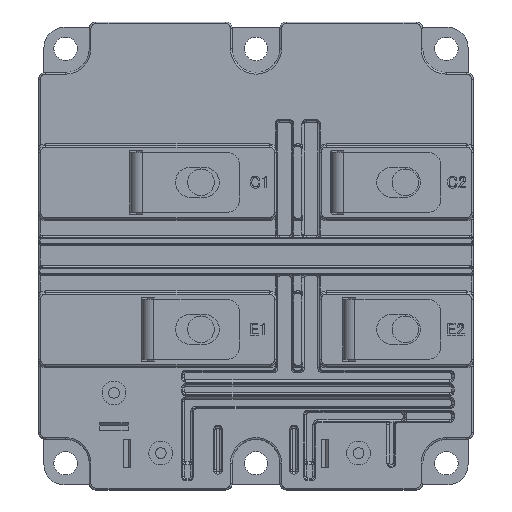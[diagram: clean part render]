
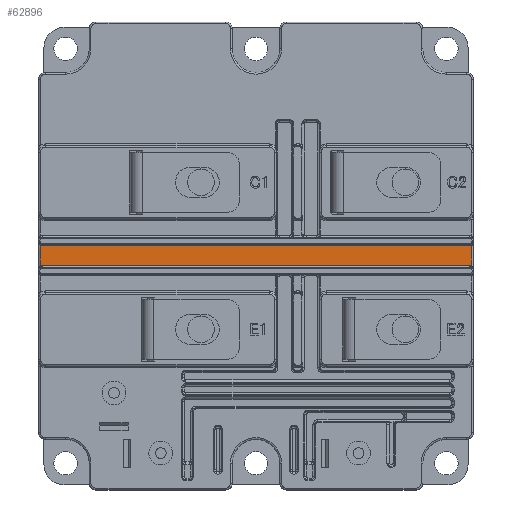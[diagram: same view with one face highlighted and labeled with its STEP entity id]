
A CAD part, top view. The second image highlights one B-rep face of the part: STEP entity #62896.
In plain terms, the highlighted planar face has unit normal (0, 0, 1).
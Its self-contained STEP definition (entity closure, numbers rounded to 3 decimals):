
#25410 = VERTEX_POINT ( 'NONE', #49083 ) ;
#25524 = VERTEX_POINT ( 'NONE', #49300 ) ;
#25565 = EDGE_CURVE ( 'NONE', #25410, #25524, #49347, .T. ) ;
#26935 = PLANE ( 'NONE',  #26944 ) ;
#26936 = CARTESIAN_POINT ( 'NONE',  ( 64., 4.5, 39.5 ) ) ;
#26941 = FACE_OUTER_BOUND ( 'NONE', #62963, .T. ) ;
#26944 = AXIS2_PLACEMENT_3D ( 'NONE', #26975, #26974, #26973 ) ;
#26948 = CARTESIAN_POINT ( 'NONE',  ( 64., 3., 39.5 ) ) ;
#26969 = DIRECTION ( 'NONE',  ( 0., -1., 0. ) ) ;
#26970 = DIRECTION ( 'NONE',  ( 0., 0., -1. ) ) ;
#26971 = AXIS2_PLACEMENT_3D ( 'NONE', #26936, #26970, #26969 ) ;
#26973 = DIRECTION ( 'NONE',  ( 0., -1., 0. ) ) ;
#26974 = DIRECTION ( 'NONE',  ( 0., 0., 1. ) ) ;
#26975 = CARTESIAN_POINT ( 'NONE',  ( -131.68, -3.5, 39.5 ) ) ;
#26977 = CIRCLE ( 'NONE', #26971, 1.5 ) ;
#27071 = CARTESIAN_POINT ( 'NONE',  ( -64., -3., 39.5 ) ) ;
#27087 = CIRCLE ( 'NONE', #27109, 1.5 ) ;
#27097 = CARTESIAN_POINT ( 'NONE',  ( 64., -3., 39.5 ) ) ;
#27098 = CIRCLE ( 'NONE', #27131, 1.5 ) ;
#27100 = DIRECTION ( 'NONE',  ( -1., 0., 0. ) ) ;
#27101 = VECTOR ( 'NONE', #27100, 1000. ) ;
#27102 = CARTESIAN_POINT ( 'NONE',  ( -64., 3., 39.5 ) ) ;
#27103 = LINE ( 'NONE', #27102, #27101 ) ;
#27109 = AXIS2_PLACEMENT_3D ( 'NONE', #27141, #27140, #27139 ) ;
#27114 = CARTESIAN_POINT ( 'NONE',  ( -64., 3., 39.5 ) ) ;
#27118 = CARTESIAN_POINT ( 'NONE',  ( 64., -3., 39.5 ) ) ;
#27128 = VECTOR ( 'NONE', #27163, 1000. ) ;
#27129 = DIRECTION ( 'NONE',  ( 0., -1., 0. ) ) ;
#27130 = DIRECTION ( 'NONE',  ( 0., 0., -1. ) ) ;
#27131 = AXIS2_PLACEMENT_3D ( 'NONE', #27143, #27130, #27129 ) ;
#27134 = LINE ( 'NONE', #27118, #27128 ) ;
#27139 = DIRECTION ( 'NONE',  ( 0., -1., 0. ) ) ;
#27140 = DIRECTION ( 'NONE',  ( 0., 0., -1. ) ) ;
#27141 = CARTESIAN_POINT ( 'NONE',  ( -64., 4.5, 39.5 ) ) ;
#27143 = CARTESIAN_POINT ( 'NONE',  ( -64., -4.5, 39.5 ) ) ;
#27163 = DIRECTION ( 'NONE',  ( 1., 0., 0. ) ) ;
#27364 = CIRCLE ( 'NONE', #27389, 1.5 ) ;
#27389 = AXIS2_PLACEMENT_3D ( 'NONE', #27420, #27419, #27418 ) ;
#27418 = DIRECTION ( 'NONE',  ( 0., -1., 0. ) ) ;
#27419 = DIRECTION ( 'NONE',  ( 0., 0., -1. ) ) ;
#27420 = CARTESIAN_POINT ( 'NONE',  ( 64., -4.5, 39.5 ) ) ;
#49083 = CARTESIAN_POINT ( 'NONE',  ( 64.5, -3.086, 39.5 ) ) ;
#49300 = CARTESIAN_POINT ( 'NONE',  ( 64.5, 3.086, 39.5 ) ) ;
#49343 = DIRECTION ( 'NONE',  ( 0., 1., 0. ) ) ;
#49344 = VECTOR ( 'NONE', #49343, 1000. ) ;
#49345 = CARTESIAN_POINT ( 'NONE',  ( 64.5, 3.5, 39.5 ) ) ;
#49347 = LINE ( 'NONE', #49345, #49344 ) ;
#62779 = ORIENTED_EDGE ( 'NONE', *, *, #95196, .T. ) ;
#62888 = VERTEX_POINT ( 'NONE', #26948 ) ;
#62893 = ORIENTED_EDGE ( 'NONE', *, *, #62897, .T. ) ;
#62896 = ADVANCED_FACE ( 'NONE', ( #26941 ), #26935, .T. ) ;
#62897 = EDGE_CURVE ( 'NONE', #25524, #62888, #26977, .T. ) ;
#62922 = ORIENTED_EDGE ( 'NONE', *, *, #25565, .T. ) ;
#62924 = VERTEX_POINT ( 'NONE', #27071 ) ;
#62936 = VERTEX_POINT ( 'NONE', #27114 ) ;
#62938 = EDGE_CURVE ( 'NONE', #62888, #62936, #27103, .T. ) ;
#62942 = ORIENTED_EDGE ( 'NONE', *, *, #62938, .T. ) ;
#62943 = EDGE_CURVE ( 'NONE', #62936, #95090, #27087, .T. ) ;
#62949 = ORIENTED_EDGE ( 'NONE', *, *, #62943, .T. ) ;
#62950 = VERTEX_POINT ( 'NONE', #27097 ) ;
#62952 = EDGE_CURVE ( 'NONE', #95140, #62924, #27098, .T. ) ;
#62955 = ORIENTED_EDGE ( 'NONE', *, *, #62952, .T. ) ;
#62957 = EDGE_CURVE ( 'NONE', #62924, #62950, #27134, .T. ) ;
#62963 = EDGE_LOOP ( 'NONE', ( #62922, #62893, #62942, #62949, #62779, #62955, #62997, #63020 ) ) ;
#62997 = ORIENTED_EDGE ( 'NONE', *, *, #62957, .T. ) ;
#62998 = EDGE_CURVE ( 'NONE', #62950, #25410, #27364, .T. ) ;
#63020 = ORIENTED_EDGE ( 'NONE', *, *, #62998, .T. ) ;
#95090 = VERTEX_POINT ( 'NONE', #124985 ) ;
#95140 = VERTEX_POINT ( 'NONE', #125144 ) ;
#95196 = EDGE_CURVE ( 'NONE', #95090, #95140, #125275, .T. ) ;
#124985 = CARTESIAN_POINT ( 'NONE',  ( -64.5, 3.086, 39.5 ) ) ;
#125144 = CARTESIAN_POINT ( 'NONE',  ( -64.5, -3.086, 39.5 ) ) ;
#125275 = LINE ( 'NONE', #125357, #125354 ) ;
#125353 = DIRECTION ( 'NONE',  ( 0., -1., 0. ) ) ;
#125354 = VECTOR ( 'NONE', #125353, 1000. ) ;
#125357 = CARTESIAN_POINT ( 'NONE',  ( -64.5, -3.5, 39.5 ) ) ;
